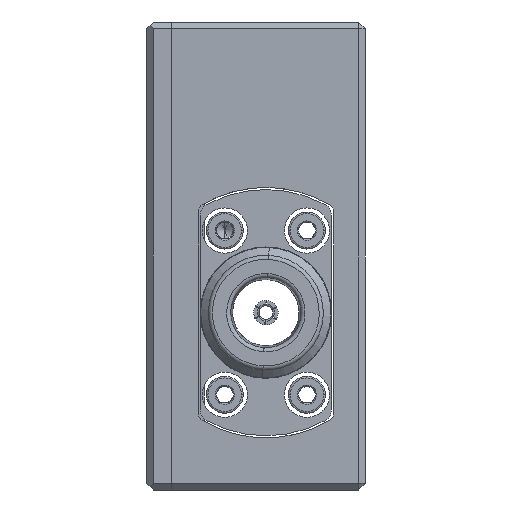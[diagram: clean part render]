
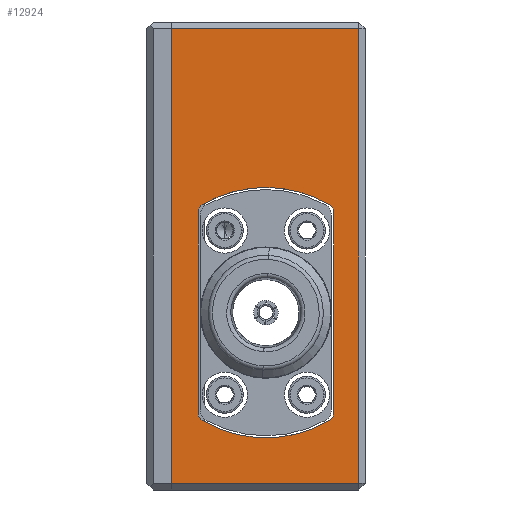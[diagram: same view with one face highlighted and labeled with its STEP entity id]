
A CAD part, left-side view. The second image highlights one B-rep face of the part: STEP entity #12924.
In plain terms, the highlighted planar face has unit normal (-1, 0, 0).
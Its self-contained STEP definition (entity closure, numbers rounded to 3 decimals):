
#121 = ORIENTED_EDGE ( 'NONE', *, *, #21902, .T. ) ;
#166 = CARTESIAN_POINT ( 'NONE',  ( -20., -19.75, -26.668 ) ) ;
#298 = DIRECTION ( 'NONE',  ( -1., 0., 0. ) ) ;
#366 = CARTESIAN_POINT ( 'NONE',  ( -20., -11.5, -14.4 ) ) ;
#528 = DIRECTION ( 'NONE',  ( 0., 0., 1. ) ) ;
#1112 = FACE_BOUND ( 'NONE', #9869, .T. ) ;
#1171 = FACE_OUTER_BOUND ( 'NONE', #16684, .T. ) ;
#1534 = AXIS2_PLACEMENT_3D ( 'NONE', #14515, #14459, #14453 ) ;
#1709 = DIRECTION ( 'NONE',  ( 0., 0., 1. ) ) ;
#1757 = DIRECTION ( 'NONE',  ( -1., 0., 0. ) ) ;
#1769 = VERTEX_POINT ( 'NONE', #9154 ) ;
#1920 = VERTEX_POINT ( 'NONE', #7356 ) ;
#1931 = CARTESIAN_POINT ( 'NONE',  ( -20., -23.6, -36. ) ) ;
#2066 = PLANE ( 'NONE',  #11757 ) ;
#2411 = VECTOR ( 'NONE', #22508, 1000. ) ;
#2485 = LINE ( 'NONE', #5210, #2411 ) ;
#3495 = DIRECTION ( 'NONE',  ( 0., 0., 1. ) ) ;
#3530 = DIRECTION ( 'NONE',  ( -1., 0., 0. ) ) ;
#3611 = CARTESIAN_POINT ( 'NONE',  ( -20., -4.25, -26.668 ) ) ;
#4480 = CIRCLE ( 'NONE', #16497, 1. ) ;
#5105 = CIRCLE ( 'NONE', #17362, 1. ) ;
#5210 = CARTESIAN_POINT ( 'NONE',  ( -20., -3.25, -26.668 ) ) ;
#5584 = LINE ( 'NONE', #9593, #5777 ) ;
#5613 = VERTEX_POINT ( 'NONE', #20335 ) ;
#5685 = DIRECTION ( 'NONE',  ( 0., 0., -1. ) ) ;
#5723 = VERTEX_POINT ( 'NONE', #16447 ) ;
#5760 = VERTEX_POINT ( 'NONE', #15778 ) ;
#5777 = VECTOR ( 'NONE', #9520, 1000. ) ;
#5862 = VERTEX_POINT ( 'NONE', #11554 ) ;
#6005 = DIRECTION ( 'NONE',  ( -1., 0., 0. ) ) ;
#6043 = EDGE_CURVE ( 'NONE', #6438, #6292, #2485, .T. ) ;
#6069 = CARTESIAN_POINT ( 'NONE',  ( -20., -18.75, -2.132 ) ) ;
#6275 = VERTEX_POINT ( 'NONE', #22659 ) ;
#6292 = VERTEX_POINT ( 'NONE', #22280 ) ;
#6438 = VERTEX_POINT ( 'NONE', #20661 ) ;
#6519 = ORIENTED_EDGE ( 'NONE', *, *, #22074, .F. ) ;
#6893 = EDGE_CURVE ( 'NONE', #1769, #1920, #23038, .T. ) ;
#6895 = VERTEX_POINT ( 'NONE', #14912 ) ;
#7115 = VERTEX_POINT ( 'NONE', #11707 ) ;
#7163 = VERTEX_POINT ( 'NONE', #11159 ) ;
#7265 = VERTEX_POINT ( 'NONE', #10290 ) ;
#7356 = CARTESIAN_POINT ( 'NONE',  ( -20., -3.741, -1.271 ) ) ;
#7493 = ORIENTED_EDGE ( 'NONE', *, *, #20743, .F. ) ;
#7570 = LINE ( 'NONE', #10649, #7712 ) ;
#7597 = ORIENTED_EDGE ( 'NONE', *, *, #12061, .F. ) ;
#7712 = VECTOR ( 'NONE', #11280, 1000. ) ;
#8377 = ORIENTED_EDGE ( 'NONE', *, *, #11352, .T. ) ;
#9154 = CARTESIAN_POINT ( 'NONE',  ( -20., -11.5, 0.85 ) ) ;
#9520 = DIRECTION ( 'NONE',  ( 0., 0., 1. ) ) ;
#9593 = CARTESIAN_POINT ( 'NONE',  ( -20., -22.8, 21. ) ) ;
#9869 = EDGE_LOOP ( 'NONE', ( #15772, #7493, #12280, #22569, #7597, #14386, #17005, #6519, #12213 ) ) ;
#10290 = CARTESIAN_POINT ( 'NONE',  ( -20., 0., 20.2 ) ) ;
#10574 = DIRECTION ( 'NONE',  ( 0., 0., 1. ) ) ;
#10602 = DIRECTION ( 'NONE',  ( -1., 0., 0. ) ) ;
#10633 = CARTESIAN_POINT ( 'NONE',  ( -20., -11.5, -14.4 ) ) ;
#10649 = CARTESIAN_POINT ( 'NONE',  ( -20., -23.6, -35.2 ) ) ;
#11159 = CARTESIAN_POINT ( 'NONE',  ( -20., -19.259, -1.271 ) ) ;
#11280 = DIRECTION ( 'NONE',  ( 0., -1., 0. ) ) ;
#11352 = EDGE_CURVE ( 'NONE', #5723, #5613, #7570, .T. ) ;
#11503 = CIRCLE ( 'NONE', #15783, 15.25 ) ;
#11554 = CARTESIAN_POINT ( 'NONE',  ( -20., -3.741, -27.529 ) ) ;
#11707 = CARTESIAN_POINT ( 'NONE',  ( -20., -19.75, -2.132 ) ) ;
#11757 = AXIS2_PLACEMENT_3D ( 'NONE', #1931, #1757, #1709 ) ;
#11779 = CIRCLE ( 'NONE', #15889, 1. ) ;
#11799 = EDGE_CURVE ( 'NONE', #5613, #5760, #5584, .T. ) ;
#11931 = EDGE_CURVE ( 'NONE', #6292, #5862, #5105, .T. ) ;
#12007 = LINE ( 'NONE', #13621, #12036 ) ;
#12036 = VECTOR ( 'NONE', #15236, 1000. ) ;
#12056 = LINE ( 'NONE', #13696, #12100 ) ;
#12061 = EDGE_CURVE ( 'NONE', #1920, #6438, #4480, .T. ) ;
#12100 = VECTOR ( 'NONE', #13666, 1000. ) ;
#12213 = ORIENTED_EDGE ( 'NONE', *, *, #21759, .F. ) ;
#12280 = ORIENTED_EDGE ( 'NONE', *, *, #11931, .F. ) ;
#12333 = CIRCLE ( 'NONE', #16236, 1. ) ;
#12516 = VECTOR ( 'NONE', #22647, 1000. ) ;
#12543 = LINE ( 'NONE', #166, #12516 ) ;
#12924 = ADVANCED_FACE ( 'NONE', ( #1112, #1171 ), #2066, .T. ) ;
#13621 = CARTESIAN_POINT ( 'NONE',  ( -20., 0., -36. ) ) ;
#13666 = DIRECTION ( 'NONE',  ( 0., 1., 0. ) ) ;
#13687 = ORIENTED_EDGE ( 'NONE', *, *, #11799, .T. ) ;
#13696 = CARTESIAN_POINT ( 'NONE',  ( -20., -23.6, 20.2 ) ) ;
#14386 = ORIENTED_EDGE ( 'NONE', *, *, #6893, .F. ) ;
#14453 = DIRECTION ( 'NONE',  ( 0., 0., 1. ) ) ;
#14459 = DIRECTION ( 'NONE',  ( -1., 0., 0. ) ) ;
#14515 = CARTESIAN_POINT ( 'NONE',  ( -20., -11.5, -14.4 ) ) ;
#14912 = CARTESIAN_POINT ( 'NONE',  ( -20., -19.75, -26.668 ) ) ;
#15236 = DIRECTION ( 'NONE',  ( 0., 0., 1. ) ) ;
#15611 = CIRCLE ( 'NONE', #17935, 15.25 ) ;
#15772 = ORIENTED_EDGE ( 'NONE', *, *, #21863, .F. ) ;
#15778 = CARTESIAN_POINT ( 'NONE',  ( -20., -22.8, 20.2 ) ) ;
#15783 = AXIS2_PLACEMENT_3D ( 'NONE', #366, #298, #528 ) ;
#15889 = AXIS2_PLACEMENT_3D ( 'NONE', #6069, #6005, #5685 ) ;
#15903 = DIRECTION ( 'NONE',  ( -1., 0., 0. ) ) ;
#16172 = CARTESIAN_POINT ( 'NONE',  ( -20., -18.75, -26.668 ) ) ;
#16236 = AXIS2_PLACEMENT_3D ( 'NONE', #16172, #15903, #16658 ) ;
#16447 = CARTESIAN_POINT ( 'NONE',  ( -20., 0., -35.2 ) ) ;
#16497 = AXIS2_PLACEMENT_3D ( 'NONE', #19283, #19236, #19311 ) ;
#16658 = DIRECTION ( 'NONE',  ( 0., 0., -1. ) ) ;
#16684 = EDGE_LOOP ( 'NONE', ( #13687, #121, #19928, #8377 ) ) ;
#17005 = ORIENTED_EDGE ( 'NONE', *, *, #22202, .F. ) ;
#17362 = AXIS2_PLACEMENT_3D ( 'NONE', #3611, #3530, #3495 ) ;
#17935 = AXIS2_PLACEMENT_3D ( 'NONE', #10633, #10602, #10574 ) ;
#19236 = DIRECTION ( 'NONE',  ( -1., 0., 0. ) ) ;
#19283 = CARTESIAN_POINT ( 'NONE',  ( -20., -4.25, -2.132 ) ) ;
#19311 = DIRECTION ( 'NONE',  ( 0., 0., -1. ) ) ;
#19928 = ORIENTED_EDGE ( 'NONE', *, *, #21931, .F. ) ;
#20335 = CARTESIAN_POINT ( 'NONE',  ( -20., -22.8, -35.2 ) ) ;
#20661 = CARTESIAN_POINT ( 'NONE',  ( -20., -3.25, -2.132 ) ) ;
#20743 = EDGE_CURVE ( 'NONE', #5862, #6275, #15611, .T. ) ;
#21759 = EDGE_CURVE ( 'NONE', #6895, #7115, #12543, .T. ) ;
#21863 = EDGE_CURVE ( 'NONE', #6275, #6895, #12333, .T. ) ;
#21902 = EDGE_CURVE ( 'NONE', #5760, #7265, #12056, .T. ) ;
#21931 = EDGE_CURVE ( 'NONE', #5723, #7265, #12007, .T. ) ;
#22074 = EDGE_CURVE ( 'NONE', #7115, #7163, #11779, .T. ) ;
#22202 = EDGE_CURVE ( 'NONE', #7163, #1769, #11503, .T. ) ;
#22280 = CARTESIAN_POINT ( 'NONE',  ( -20., -3.25, -26.668 ) ) ;
#22508 = DIRECTION ( 'NONE',  ( 0., 0., -1. ) ) ;
#22569 = ORIENTED_EDGE ( 'NONE', *, *, #6043, .F. ) ;
#22647 = DIRECTION ( 'NONE',  ( 0., 0., 1. ) ) ;
#22659 = CARTESIAN_POINT ( 'NONE',  ( -20., -19.259, -27.529 ) ) ;
#23038 = CIRCLE ( 'NONE', #1534, 15.25 ) ;
